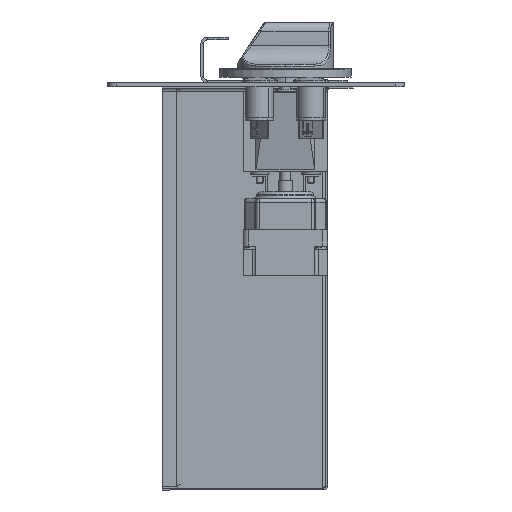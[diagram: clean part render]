
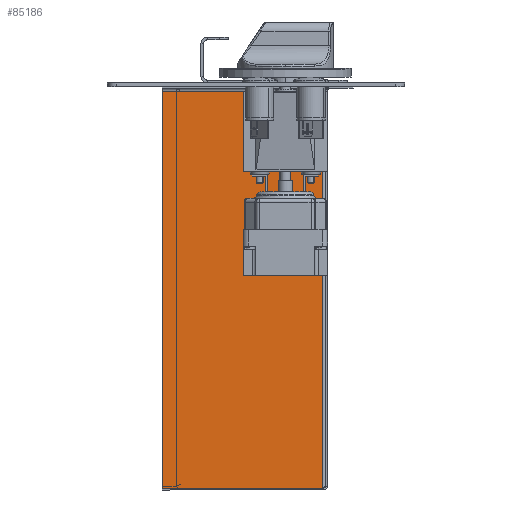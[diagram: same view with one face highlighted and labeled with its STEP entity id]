
A CAD part, left-side view. The second image highlights one B-rep face of the part: STEP entity #85186.
In plain terms, the highlighted planar face has unit normal (-1, 0, 0).
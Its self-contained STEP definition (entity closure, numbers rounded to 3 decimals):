
#42 = VERTEX_POINT ( 'NONE', #63634 ) ;
#2445 = EDGE_CURVE ( 'NONE', #65062, #42, #55010, .T. ) ;
#3358 = LINE ( 'NONE', #61981, #31121 ) ;
#8269 = LINE ( 'NONE', #85607, #76692 ) ;
#9906 = CARTESIAN_POINT ( 'NONE',  ( -160., -36.5, -220. ) ) ;
#10976 = DIRECTION ( 'NONE',  ( 0., -1., 0. ) ) ;
#17875 = CARTESIAN_POINT ( 'NONE',  ( -160., 51., -2.5 ) ) ;
#18783 = DIRECTION ( 'NONE',  ( 0., 0., -1. ) ) ;
#19676 = VECTOR ( 'NONE', #10976, 1000. ) ;
#21376 = EDGE_CURVE ( 'NONE', #76126, #29195, #3358, .T. ) ;
#24374 = DIRECTION ( 'NONE',  ( 0., 0., -1. ) ) ;
#28320 = ORIENTED_EDGE ( 'NONE', *, *, #21376, .F. ) ;
#29195 = VERTEX_POINT ( 'NONE', #74129 ) ;
#29371 = ORIENTED_EDGE ( 'NONE', *, *, #69925, .F. ) ;
#29921 = CARTESIAN_POINT ( 'NONE',  ( -160., 51., -220. ) ) ;
#30363 = CARTESIAN_POINT ( 'NONE',  ( -160., 51., -2.5 ) ) ;
#31121 = VECTOR ( 'NONE', #62833, 1000. ) ;
#33600 = VECTOR ( 'NONE', #18783, 1000. ) ;
#42422 = DIRECTION ( 'NONE',  ( 1., 0., 0. ) ) ;
#49157 = DIRECTION ( 'NONE',  ( 0., 1., 0. ) ) ;
#52465 = AXIS2_PLACEMENT_3D ( 'NONE', #29921, #42422, #49157 ) ;
#54384 = FACE_OUTER_BOUND ( 'NONE', #60233, .T. ) ;
#55010 = LINE ( 'NONE', #17875, #19676 ) ;
#60233 = EDGE_LOOP ( 'NONE', ( #70951, #80355, #28320, #29371 ) ) ;
#60696 = LINE ( 'NONE', #9906, #33600 ) ;
#61981 = CARTESIAN_POINT ( 'NONE',  ( -160., -38., -218.993 ) ) ;
#62833 = DIRECTION ( 'NONE',  ( 0., 1., 0. ) ) ;
#63634 = CARTESIAN_POINT ( 'NONE',  ( -160., -36.5, -2.5 ) ) ;
#65062 = VERTEX_POINT ( 'NONE', #30363 ) ;
#69925 = EDGE_CURVE ( 'NONE', #42, #76126, #60696, .T. ) ;
#70951 = ORIENTED_EDGE ( 'NONE', *, *, #2445, .F. ) ;
#74129 = CARTESIAN_POINT ( 'NONE',  ( -160., 51., -218.993 ) ) ;
#76126 = VERTEX_POINT ( 'NONE', #83050 ) ;
#76692 = VECTOR ( 'NONE', #24374, 1000. ) ;
#80355 = ORIENTED_EDGE ( 'NONE', *, *, #81477, .T. ) ;
#81477 = EDGE_CURVE ( 'NONE', #65062, #29195, #8269, .T. ) ;
#82268 = PLANE ( 'NONE',  #52465 ) ;
#83050 = CARTESIAN_POINT ( 'NONE',  ( -160., -36.5, -218.993 ) ) ;
#85186 = ADVANCED_FACE ( 'NONE', ( #54384 ), #82268, .F. ) ;
#85607 = CARTESIAN_POINT ( 'NONE',  ( -160., 51., -220. ) ) ;
